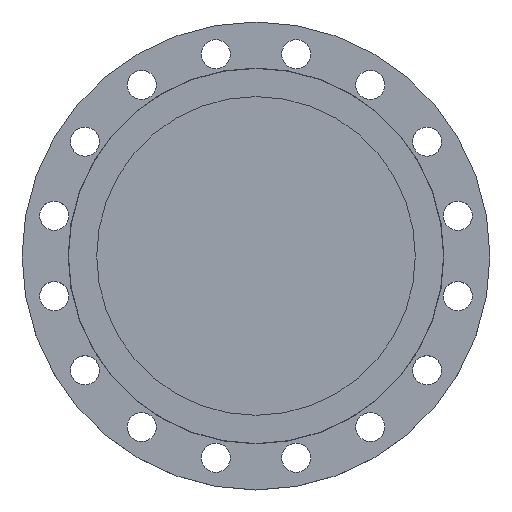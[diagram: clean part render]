
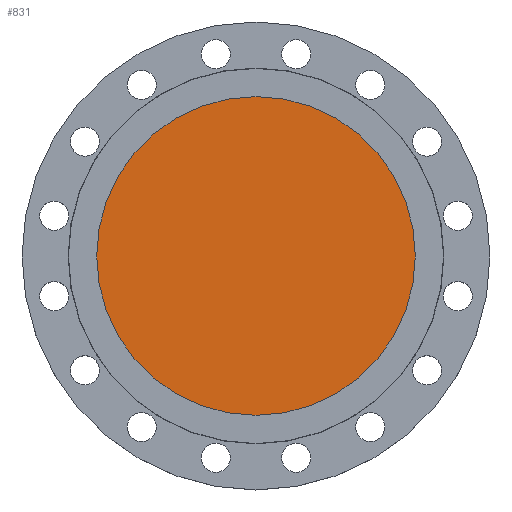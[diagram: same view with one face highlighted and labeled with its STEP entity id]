
A CAD part, top view. The second image highlights one B-rep face of the part: STEP entity #831.
In plain terms, the highlighted planar face has unit normal (0, 0, 1).
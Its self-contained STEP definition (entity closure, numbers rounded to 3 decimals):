
#221 = CARTESIAN_POINT ( 'NONE',  ( -197.5, 0., -5.5 ) ) ;
#276 = DIRECTION ( 'NONE',  ( -1., 0., 0. ) ) ;
#278 = DIRECTION ( 'NONE',  ( 0., 0., -1. ) ) ;
#279 = CARTESIAN_POINT ( 'NONE',  ( 0., 0., -5.5 ) ) ;
#430 = CARTESIAN_POINT ( 'NONE',  ( 197.5, 0., -5.5 ) ) ;
#500 = DIRECTION ( 'NONE',  ( 1., 0., 0. ) ) ;
#501 = DIRECTION ( 'NONE',  ( 0., 0., 1. ) ) ;
#502 = CARTESIAN_POINT ( 'NONE',  ( 0., 0., -5.5 ) ) ;
#503 = PLANE ( 'NONE',  #1464 ) ;
#505 = FACE_OUTER_BOUND ( 'NONE', #1168, .T. ) ;
#831 = ADVANCED_FACE ( 'NONE', ( #505 ), #503, .T. ) ;
#891 = DIRECTION ( 'NONE',  ( -1., 0., 0. ) ) ;
#893 = DIRECTION ( 'NONE',  ( 0., 0., -1. ) ) ;
#899 = CARTESIAN_POINT ( 'NONE',  ( 0., 0., -5.5 ) ) ;
#932 = AXIS2_PLACEMENT_3D ( 'NONE', #899, #893, #891 ) ;
#960 = VERTEX_POINT ( 'NONE', #430 ) ;
#1090 = ORIENTED_EDGE ( 'NONE', *, *, #1204, .F. ) ;
#1110 = ORIENTED_EDGE ( 'NONE', *, *, #1589, .F. ) ;
#1168 = EDGE_LOOP ( 'NONE', ( #1090, #1110 ) ) ;
#1204 = EDGE_CURVE ( 'NONE', #1335, #960, #1458, .T. ) ;
#1335 = VERTEX_POINT ( 'NONE', #221 ) ;
#1458 = CIRCLE ( 'NONE', #1462, 197.5 ) ;
#1462 = AXIS2_PLACEMENT_3D ( 'NONE', #279, #278, #276 ) ;
#1464 = AXIS2_PLACEMENT_3D ( 'NONE', #502, #501, #500 ) ;
#1589 = EDGE_CURVE ( 'NONE', #960, #1335, #1607, .T. ) ;
#1607 = CIRCLE ( 'NONE', #932, 197.5 ) ;
